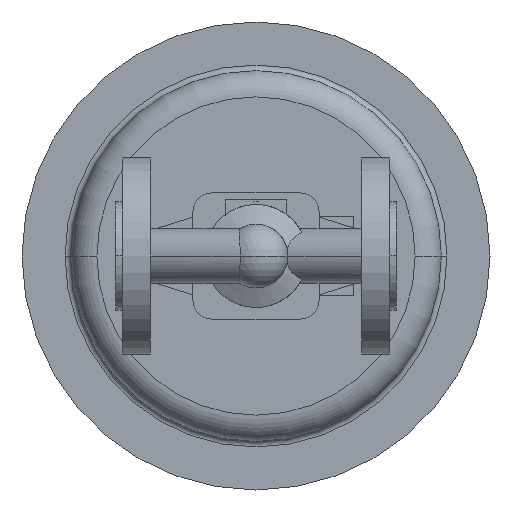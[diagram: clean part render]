
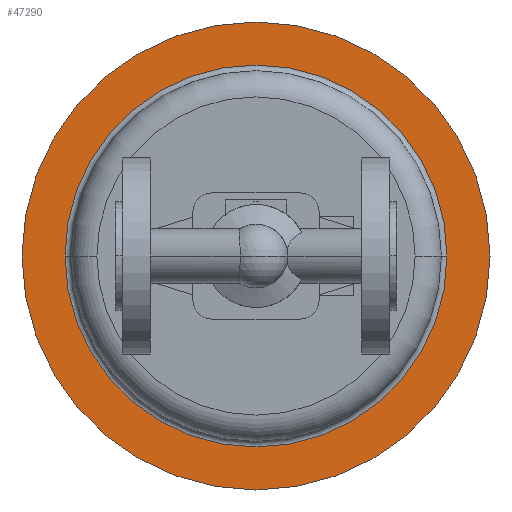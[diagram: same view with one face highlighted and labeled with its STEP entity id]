
A CAD part, front view. The second image highlights one B-rep face of the part: STEP entity #47290.
In plain terms, the highlighted planar face has unit normal (0, -1, 0).
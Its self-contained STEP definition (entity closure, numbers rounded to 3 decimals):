
#32490=CARTESIAN_POINT('',(200.,375.,0.));
#32500=VERTEX_POINT('',#32490);
#32660=CARTESIAN_POINT('',(-50.,375.,0.));
#32670=VERTEX_POINT('',#32660);
#32700=CARTESIAN_POINT('',(75.,375.,0.));
#32710=DIRECTION('',(0.,1.,0.));
#32720=DIRECTION('',(1.,0.,0.));
#32730=AXIS2_PLACEMENT_3D('',#32700,#32710,#32720);
#32740=CIRCLE('',#32730,125.);
#32750=EDGE_CURVE('',#32500,#32670,#32740,.T.);
#32920=CARTESIAN_POINT('',(177.,375.,0.));
#32930=VERTEX_POINT('',#32920);
#32960=CARTESIAN_POINT('',(75.,375.,0.));
#32970=DIRECTION('',(0.,1.,0.));
#32980=DIRECTION('',(1.,0.,0.));
#32990=AXIS2_PLACEMENT_3D('',#32960,#32970,#32980);
#33000=CIRCLE('',#32990,102.);
#33010=CARTESIAN_POINT('',(-27.,375.,0.));
#33020=VERTEX_POINT('',#33010);
#33030=EDGE_CURVE('',#32930,#33020,#33000,.T.);
#47140=CARTESIAN_POINT('',(188.5,375.,0.));
#47150=DIRECTION('',(0.,-1.,0.));
#47160=DIRECTION('',(-1.,0.,0.));
#47170=AXIS2_PLACEMENT_3D('',#47140,#47150,#47160);
#47180=PLANE('',#47170);
#47190=EDGE_CURVE('',#32670,#32500,#32740,.T.);
#47200=ORIENTED_EDGE('',*,*,#47190,.F.);
#47210=ORIENTED_EDGE('',*,*,#32750,.F.);
#47220=EDGE_LOOP('',(#47210,#47200));
#47230=FACE_OUTER_BOUND('',#47220,.T.);
#47240=ORIENTED_EDGE('',*,*,#33030,.T.);
#47250=EDGE_CURVE('',#33020,#32930,#33000,.T.);
#47260=ORIENTED_EDGE('',*,*,#47250,.T.);
#47270=EDGE_LOOP('',(#47260,#47240));
#47280=FACE_BOUND('',#47270,.T.);
#47290=ADVANCED_FACE('',(#47230,#47280),#47180,.T.);
